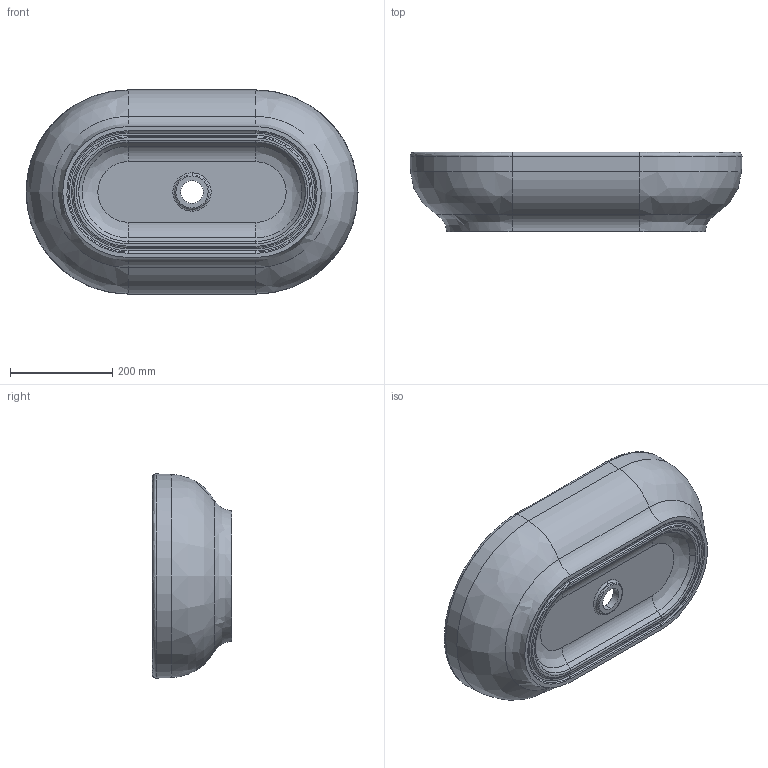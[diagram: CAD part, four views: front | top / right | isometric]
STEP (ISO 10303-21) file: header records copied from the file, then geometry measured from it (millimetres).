
FILE_DESCRIPTION (( 'STEP AP203' ), '1' );
FILE_NAME ('MN165.STEP', '2017-02-21T13:25:26', ( '' ), ( '' ), 'SwSTEP 2.0', 'SolidWorks 2016', '' );
FILE_SCHEMA (( 'CONFIG_CONTROL_DESIGN' ));
Length unit declared in the file: millimetre
Products named in the file (1): MN165
Bounding box: 649.47 x 155 x 399.47 mm (x, y, z)
Volume: 9994610.9 mm3; surface area: 1136374.5 mm2
Topology: 1 solids, 2 shells, 133 faces, 342 edges, 216 vertices
Faces by surface type: bspline 91, cylinder 24, plane 11, cone 7
Entity records: 25098 total; most frequent: CARTESIAN_POINT 22332, ORIENTED_EDGE 684, DIRECTION 415, EDGE_CURVE 342, VERTEX_POINT 216, AXIS2_PLACEMENT_3D 184, B_SPLINE_CURVE_WITH_KNOTS 148, CIRCLE 141
